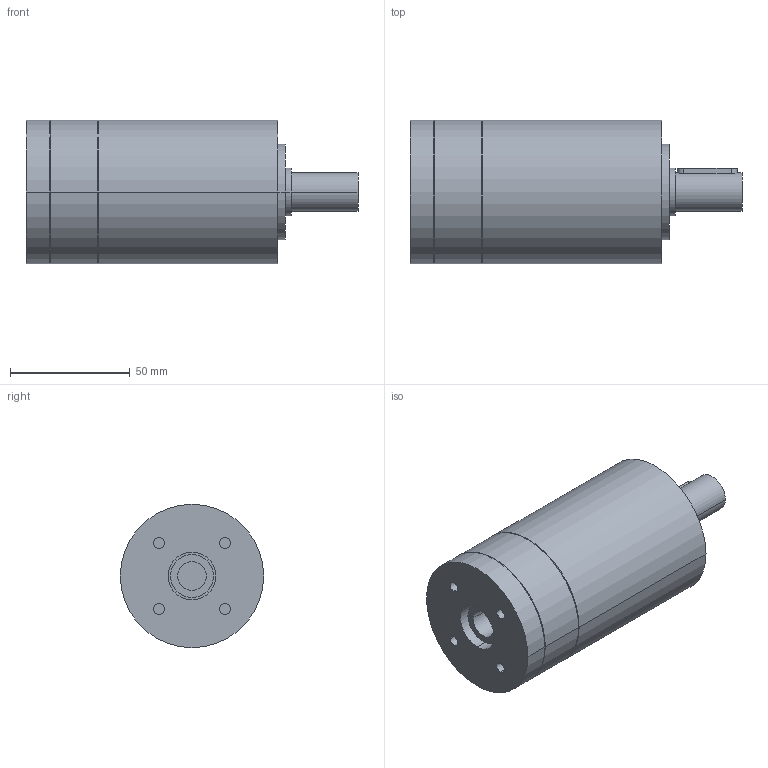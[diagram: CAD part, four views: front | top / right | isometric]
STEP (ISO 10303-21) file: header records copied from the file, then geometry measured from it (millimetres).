
FILE_DESCRIPTION(('CoCreate Modeling STEP Export'),'2;1');
FILE_NAME('GPR75_ig-9-12-16-20-24-30-36_16_B14_12_P14.stp','2014-08-25T16:02:41',(''),(''),'CoCreate Modeling STEP processor for AP214 (Solid Model)','CoCreate Modeling 16.00C 25-Feb-2009 (C) Parametric Technology GmbH','');
FILE_SCHEMA(('AUTOMOTIVE_DESIGN { 1 0 10303 214 1 1 1 1 }'));
Length unit declared in the file: millimetre
Products named in the file (2): GPR75_ig-9-12-16-20-24-30-36_16_B14_12_P14
Assembly tree (1 placements, depth 2):
  GPR75_ig-9-12-16-20-24-30-36_16_B14_12_P14
    GPR75_ig-9-12-16-20-24-30-36_16_B14_12_P14
Bounding box: 138.9 x 60 x 60 mm (x, y, z)
Volume: 301497.3 mm3; surface area: 31661.5 mm2
Topology: 1 solids, 1 shells, 77 faces, 195 edges, 139 vertices
Faces by surface type: cylinder 46, plane 25, cone 6
Entity records: 1961 total; most frequent: ORIENTED_EDGE 386, CARTESIAN_POINT 359, DIRECTION 254, EDGE_CURVE 193, VERTEX_POINT 139, AXIS2_PLACEMENT_3D 98, EDGE_LOOP 98, FACE_OUTER_BOUND 77
